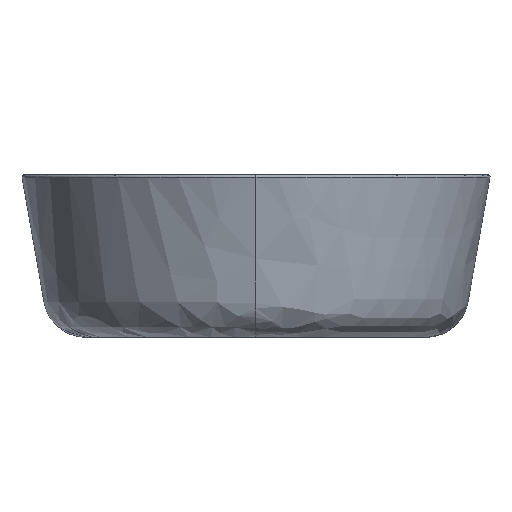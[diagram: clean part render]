
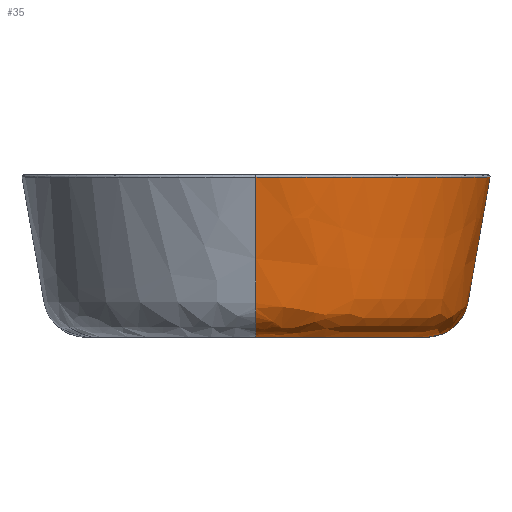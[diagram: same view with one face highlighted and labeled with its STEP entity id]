
A CAD part, front view. The second image highlights one B-rep face of the part: STEP entity #35.
In plain terms, the highlighted free-form (B-spline) face has degree [2, 2] with [5, 5] control points.
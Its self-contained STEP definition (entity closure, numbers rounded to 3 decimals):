
#35=ADVANCED_FACE('',(#362),#4520,.T.);
#362=FACE_OUTER_BOUND('',#689,.T.);
#689=EDGE_LOOP('',(#1034,#1035,#1036,#1037));
#1034=ORIENTED_EDGE('',*,*,#2518,.T.);
#1035=ORIENTED_EDGE('',*,*,#2517,.T.);
#1036=ORIENTED_EDGE('',*,*,#2516,.T.);
#1037=ORIENTED_EDGE('',*,*,#2519,.F.);
#2516=EDGE_CURVE('',#3995,#3994,#3246,.T.);
#2517=EDGE_CURVE('',#3996,#3995,#3247,.T.);
#2518=EDGE_CURVE('',#3997,#3996,#3248,.T.);
#2519=EDGE_CURVE('',#3997,#3994,#3249,.T.);
#3246=(
BOUNDED_CURVE()
B_SPLINE_CURVE(2,(#15763,#15764,#15765),.UNSPECIFIED.,.F.,.F.)
B_SPLINE_CURVE_WITH_KNOTS((3,3),(-306.305,0.),.UNSPECIFIED.)
CURVE()
GEOMETRIC_REPRESENTATION_ITEM()
RATIONAL_B_SPLINE_CURVE((1.,0.707,1.))
REPRESENTATION_ITEM('')
);
#3247=(
BOUNDED_CURVE()
B_SPLINE_CURVE(2,(#15766,#15767,#15768,#15769,#15770),.UNSPECIFIED.,.F.,
 .F.)
B_SPLINE_CURVE_WITH_KNOTS((3,2,3),(2.145,107.714,156.583),
 .UNSPECIFIED.)
CURVE()
GEOMETRIC_REPRESENTATION_ITEM()
RATIONAL_B_SPLINE_CURVE((1.,1.,1.,0.766,1.))
REPRESENTATION_ITEM('')
);
#3248=(
BOUNDED_CURVE()
B_SPLINE_CURVE(2,(#15771,#15772,#15773),.UNSPECIFIED.,.F.,.F.)
B_SPLINE_CURVE_WITH_KNOTS((3,3),(0.,302.935),
 .UNSPECIFIED.)
CURVE()
GEOMETRIC_REPRESENTATION_ITEM()
RATIONAL_B_SPLINE_CURVE((1.,0.707,1.))
REPRESENTATION_ITEM('')
);
#3249=(
BOUNDED_CURVE()
B_SPLINE_CURVE(2,(#15774,#15775,#15776,#15777,#15778),.UNSPECIFIED.,.F.,
 .F.)
B_SPLINE_CURVE_WITH_KNOTS((3,2,3),(2.145,107.714,156.583),
 .UNSPECIFIED.)
CURVE()
GEOMETRIC_REPRESENTATION_ITEM()
RATIONAL_B_SPLINE_CURVE((1.,1.,1.,0.766,1.))
REPRESENTATION_ITEM('')
);
#3994=VERTEX_POINT('',#15166);
#3995=VERTEX_POINT('',#15167);
#3996=VERTEX_POINT('',#15168);
#3997=VERTEX_POINT('',#15169);
#4520=(
BOUNDED_SURFACE()
B_SPLINE_SURFACE(2,2,((#5093,#5094,#5095,#5096,#5097),(#5098,#5099,#5100,
#5101,#5102),(#5103,#5104,#5105,#5106,#5107),(#5108,#5109,#5110,#5111,#5112),
(#5113,#5114,#5115,#5116,#5117)),.UNSPECIFIED.,.F.,.F.,.F.)
B_SPLINE_SURFACE_WITH_KNOTS((3,2,3),(3,2,3),(0.,306.305,612.611),
(0.,107.714,156.583),.UNSPECIFIED.)
GEOMETRIC_REPRESENTATION_ITEM()
RATIONAL_B_SPLINE_SURFACE(((1.,1.,1.,0.766,1.),(0.707,
0.707,0.707,0.542,0.707),
(1.,1.,1.,0.766,1.),(0.707,0.707,0.707,
0.542,0.707),(1.,1.,1.,0.766,1.)))
REPRESENTATION_ITEM('')
SURFACE()
);
#5093=CARTESIAN_POINT('',(18882.057,-418.241,-8843.269));
#5094=CARTESIAN_POINT('',(18872.705,-418.241,-8896.308));
#5095=CARTESIAN_POINT('',(18863.353,-418.241,-8949.346));
#5096=CARTESIAN_POINT('',(18858.253,-418.241,-8978.269));
#5097=CARTESIAN_POINT('',(18828.884,-418.241,-8978.269));
#5098=CARTESIAN_POINT('',(18882.057,-613.241,-8843.269));
#5099=CARTESIAN_POINT('',(18872.705,-603.889,-8896.308));
#5100=CARTESIAN_POINT('',(18863.353,-594.537,-8949.346));
#5101=CARTESIAN_POINT('',(18858.253,-589.437,-8978.269));
#5102=CARTESIAN_POINT('',(18828.884,-560.068,-8978.269));
#5103=CARTESIAN_POINT('',(18687.057,-613.241,-8843.269));
#5104=CARTESIAN_POINT('',(18687.057,-603.889,-8896.308));
#5105=CARTESIAN_POINT('',(18687.057,-594.537,-8949.346));
#5106=CARTESIAN_POINT('',(18687.057,-589.437,-8978.269));
#5107=CARTESIAN_POINT('',(18687.057,-560.068,-8978.269));
#5108=CARTESIAN_POINT('',(18492.057,-613.241,-8843.269));
#5109=CARTESIAN_POINT('',(18501.409,-603.889,-8896.308));
#5110=CARTESIAN_POINT('',(18510.761,-594.537,-8949.346));
#5111=CARTESIAN_POINT('',(18515.861,-589.437,-8978.269));
#5112=CARTESIAN_POINT('',(18545.23,-560.068,-8978.269));
#5113=CARTESIAN_POINT('',(18492.057,-418.241,-8843.269));
#5114=CARTESIAN_POINT('',(18501.409,-418.241,-8896.308));
#5115=CARTESIAN_POINT('',(18510.761,-418.241,-8949.346));
#5116=CARTESIAN_POINT('',(18515.861,-418.241,-8978.269));
#5117=CARTESIAN_POINT('',(18545.23,-418.241,-8978.269));
#15166=CARTESIAN_POINT('',(18828.884,-418.241,-8978.269));
#15167=CARTESIAN_POINT('',(18687.057,-560.068,-8978.269));
#15168=CARTESIAN_POINT('',(18687.057,-612.868,-8845.381));
#15169=CARTESIAN_POINT('',(18881.685,-418.241,-8845.381));
#15763=CARTESIAN_POINT('',(18687.057,-560.068,-8978.269));
#15764=CARTESIAN_POINT('',(18828.884,-560.068,-8978.269));
#15765=CARTESIAN_POINT('',(18828.884,-418.241,-8978.269));
#15766=CARTESIAN_POINT('',(18687.057,-612.868,-8845.381));
#15767=CARTESIAN_POINT('',(18687.057,-603.703,-8897.364));
#15768=CARTESIAN_POINT('',(18687.057,-594.537,-8949.346));
#15769=CARTESIAN_POINT('',(18687.057,-589.437,-8978.269));
#15770=CARTESIAN_POINT('',(18687.057,-560.068,-8978.269));
#15771=CARTESIAN_POINT('',(18881.685,-418.241,-8845.381));
#15772=CARTESIAN_POINT('',(18881.685,-612.868,-8845.381));
#15773=CARTESIAN_POINT('',(18687.057,-612.868,-8845.381));
#15774=CARTESIAN_POINT('',(18881.685,-418.241,-8845.381));
#15775=CARTESIAN_POINT('',(18872.519,-418.241,-8897.364));
#15776=CARTESIAN_POINT('',(18863.353,-418.241,-8949.346));
#15777=CARTESIAN_POINT('',(18858.253,-418.241,-8978.269));
#15778=CARTESIAN_POINT('',(18828.884,-418.241,-8978.269));
